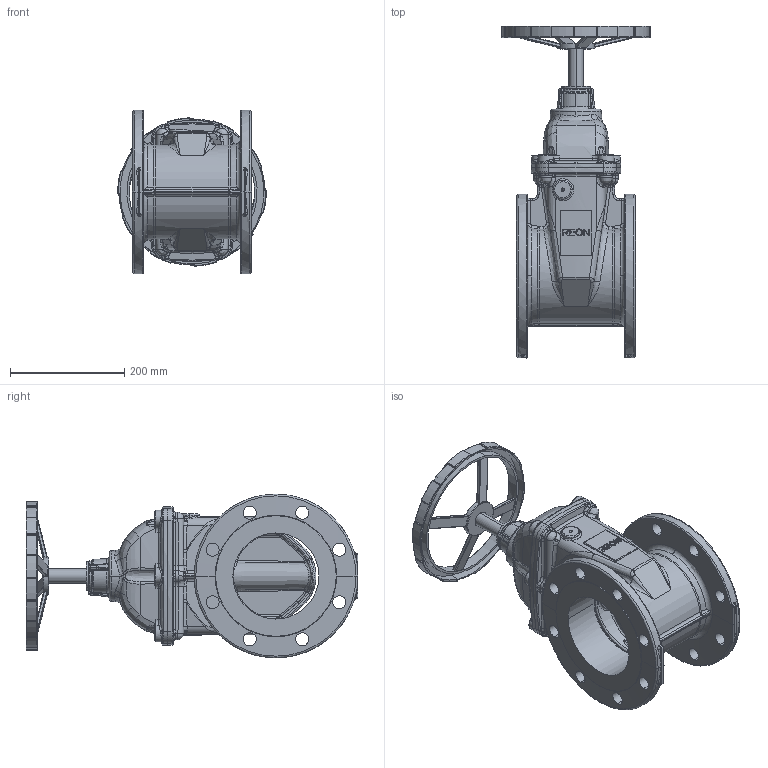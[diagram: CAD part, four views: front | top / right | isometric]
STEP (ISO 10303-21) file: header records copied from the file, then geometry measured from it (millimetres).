
FILE_DESCRIPTION (( 'STEP AP203' ), '1' );
FILE_NAME ('DN150掅概.STEP', '2026-09-23T03:51:38', ( 'Windows 蚚誧' ), ( 'Microsoft' ), 'SwSTEP 2.0', 'SolidWorks 2022', '' );
FILE_SCHEMA (( 'CONFIG_CONTROL_DESIGN' ));
Length unit declared in the file: millimetre
Products named in the file (8): hexagon socket head cap screws gb_GB_FASTENER_SCREWS_HSHCS M12X25-N; DN150上铜母; DN150阀盖; D260手轮; DN150阀体; DN150闸阀; DN150阀板; DN150阀杆
Assembly tree (13 placements, depth 2):
  DN150闸阀
    DN150阀体
    DN150阀盖
    DN150阀板  x2
    DN150上铜母
    D260手轮
    DN150阀杆
    hexagon socket head cap screws gb_GB_FASTENER_SCREWS_HSHCS M12X25-N  x6
Bounding box: 259.95 x 580.79 x 286.43 mm (x, y, z)
Volume: 4557889.3 mm3; surface area: 1039078.5 mm2
Topology: 13 solids, 13 shells, 2020 faces, 4854 edges, 2840 vertices
Faces by surface type: bspline 1051, cylinder 412, plane 297, torus 140, sphere 63, cone 57
Entity records: 101384 total; most frequent: CARTESIAN_POINT 70330, ORIENTED_EDGE 8148, EDGE_CURVE 4074, DIRECTION 3711, VERTEX_POINT 2394, B_SPLINE_CURVE_WITH_KNOTS 2042, EDGE_LOOP 1784, ADVANCED_FACE 1708
